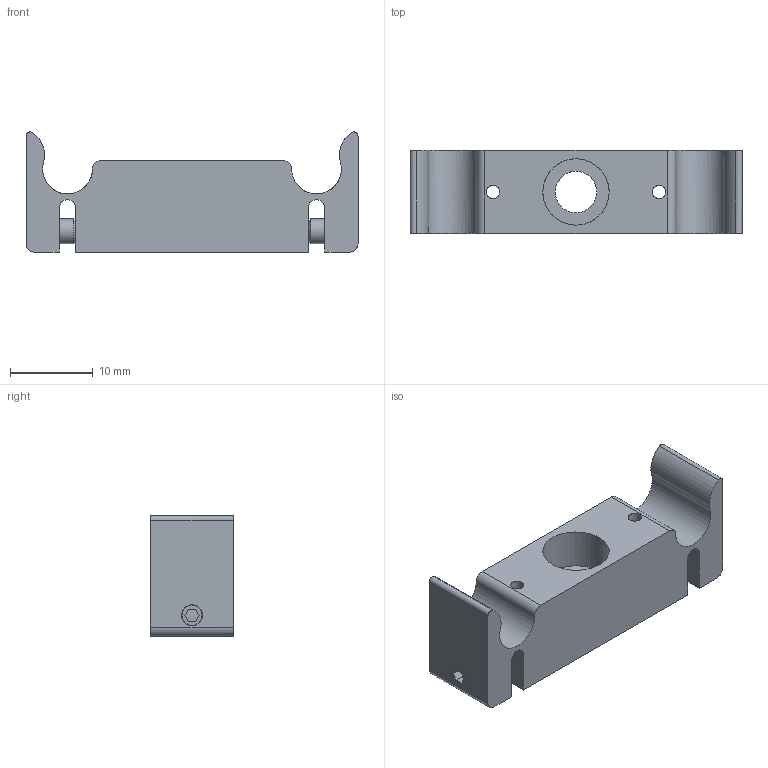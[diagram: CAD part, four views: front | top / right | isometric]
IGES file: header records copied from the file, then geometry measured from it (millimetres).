
Global section: file name: C30-RMB-10; native system: Autodesk Inventor 2016; preprocessor: unknown; author: e.nonaka; date: 20170509.104715; units: millimetre
Bounding box: 40 x 10 x 14.47 mm (x, y, z)
Volume: 3483.7 mm3; surface area: 2553.1 mm2
Topology: 1 solids, 1 shells, 53 faces, 142 edges, 96 vertices
Faces by surface type: bspline 53
